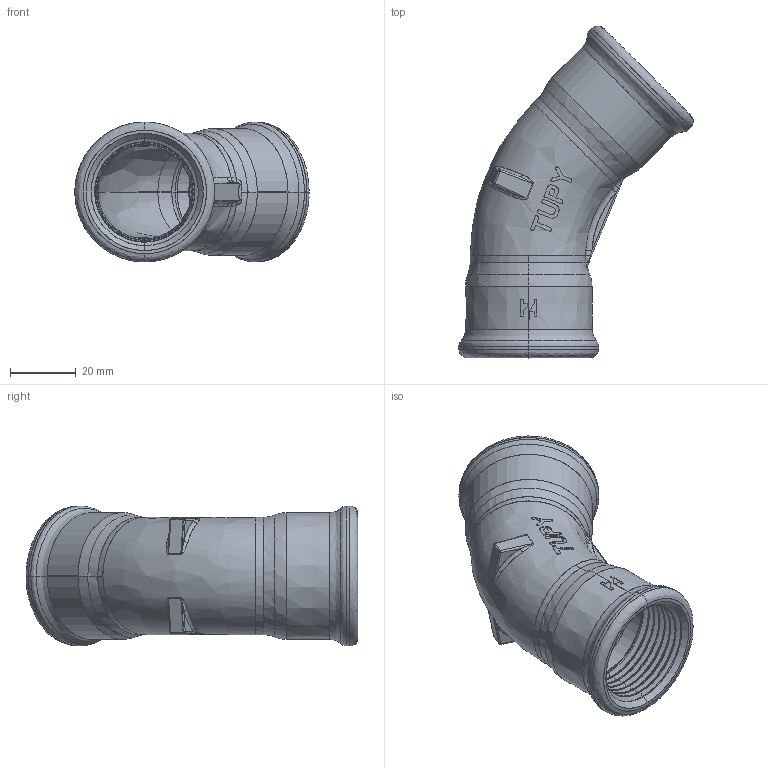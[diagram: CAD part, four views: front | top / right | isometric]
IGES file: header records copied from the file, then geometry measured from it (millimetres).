
Start section: SolidWorks IGES file using analytic representation for surfaces
Global section: file name: C:\Users\Joel Rosa\Desktop\Tubulação\12-26-OK\12-26-007.IGS; native system: SolidWorks 2011; preprocessor: SolidWorks 2011; author: Joel Rosa; date: 131025.195729; units: millimetre
Bounding box: 71.38 x 101.08 x 42.6 mm (x, y, z)
Surface area: 24929.9 mm2 (no closed solid volume)
Topology: 0 solids, 0 shells, 351 faces, 2965 edges, 2961 vertices
Faces by surface type: bspline 243, revolution 108
